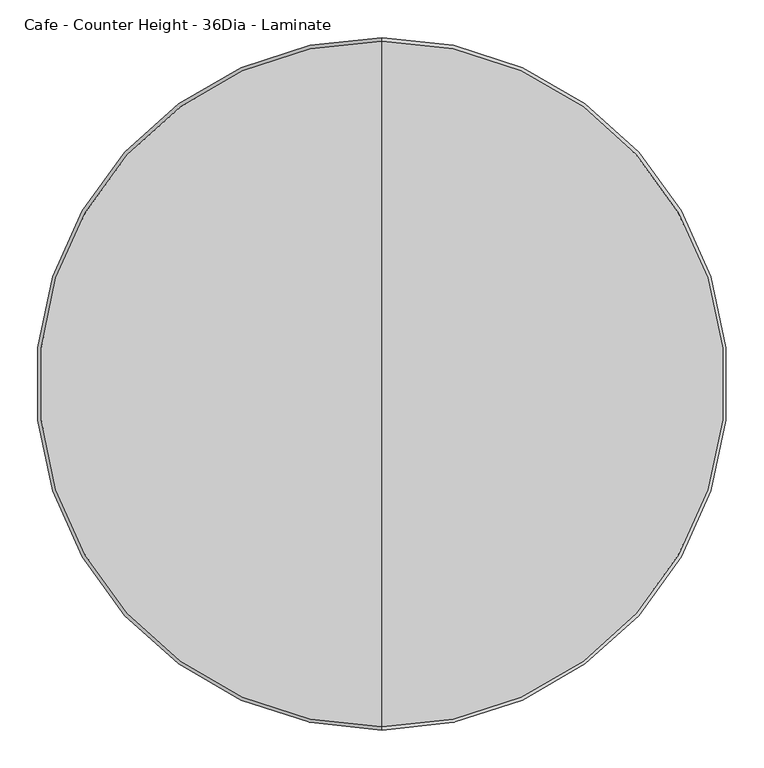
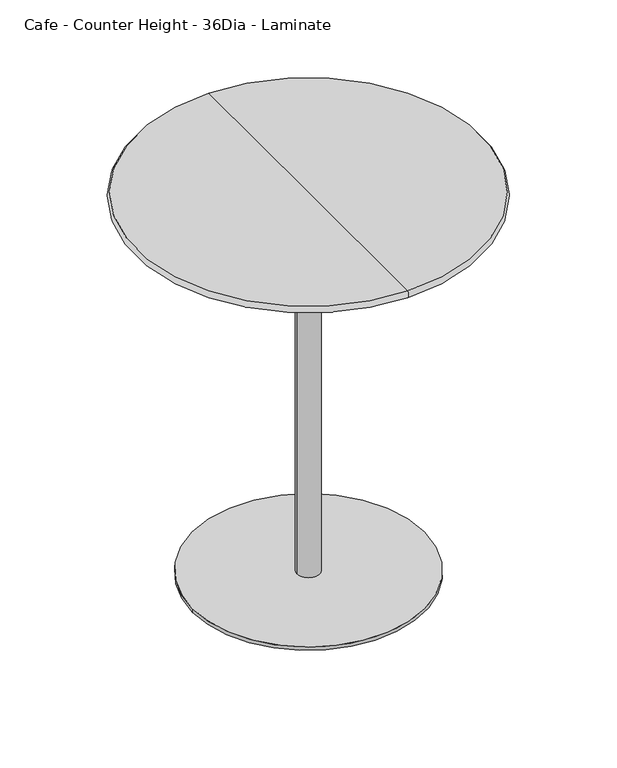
"""IFC4 building model written with IfcOpenShell, lengths in millimetres: furniture geometry, Steelcase Coalesse - Enea - Table - Single Base : Cafe - Counter Height - 36Dia - Laminate."""

import ifcopenshell
import ifcopenshell.guid

model = None  # the IFC model being written
_history = None  # IfcOwnerHistory: only IFC2X3 demands one
_inside = {}  # id of a spatial element -> (the spatial element, [elements in it])
_under = {}  # id of a project, library or spatial element -> (it, [spatial elements below it])
_declared = {}  # id of a project -> (the project, [libraries it declares])
_typed = {}  # id of a type object -> (the type object, [elements of that type])
_made_of = {}  # id of a material, layer set ... -> (it, [elements and type objects made of it])


def new_model(schema):
    """Start an empty IFC model of exactly this schema.

    Asked for "IFC4X3", IfcOpenShell would pick the latest addendum, in which some entities
    have other attributes; the version numbers below select the first issue.
    IFC2X3 requires an IfcOwnerHistory on every rooted entity: one is made here for all.
    """
    global model, _history
    if schema == "IFC4X3":
        model = ifcopenshell.file(schema_version=(4, 3, 0, 0))
    else:
        model = ifcopenshell.file(schema=schema)
    _inside.clear()
    _under.clear()
    _declared.clear()
    _typed.clear()
    _made_of.clear()
    _history = None
    if model.schema == "IFC2X3":
        org = make("IfcOrganization", Name="unknown")
        user = make(
            "IfcPersonAndOrganization",
            ThePerson=make("IfcPerson", FamilyName="unknown"),
            TheOrganization=org,
        )
        app = make(
            "IfcApplication",
            ApplicationDeveloper=org,
            Version="unknown",
            ApplicationFullName="unknown",
            ApplicationIdentifier="unknown",
        )
        _history = make(
            "IfcOwnerHistory",
            OwningUser=user,
            OwningApplication=app,
            ChangeAction="ADDED",
            CreationDate=0,
        )
    return model


def make(cls, **values):
    """One entity of the class cls with the attributes given. An attribute that is None is left unset."""
    return model.create_entity(
        cls, **{name: value for name, value in values.items() if value is not None}
    )


def rooted(cls, **values):
    """An entity with a GlobalId (a new one), such as an element, a storey or a relation."""
    return make(cls, GlobalId=ifcopenshell.guid.new(), OwnerHistory=_history, **values)


def si_unit(unit_type, name, prefix=None):
    """IfcSIUnit, for example si_unit("LENGTHUNIT", "METRE", prefix="MILLI")."""
    return make("IfcSIUnit", UnitType=unit_type, Prefix=prefix, Name=name)


def assignment(units):
    """IfcUnitAssignment: the units of a project."""
    return None if units is None else make("IfcUnitAssignment", Units=units)


def point(xyz):
    """IfcCartesianPoint."""
    return None if xyz is None else make("IfcCartesianPoint", Coordinates=xyz)


def direction(xyz):
    """IfcDirection."""
    return None if xyz is None else make("IfcDirection", DirectionRatios=xyz)


def frame(location, z_axis=None, x_axis=None):
    """IfcAxis2Placement3D, a coordinate frame: its origin and axes. An axis left out is left unset."""
    return make(
        "IfcAxis2Placement3D",
        Location=point(location),
        Axis=direction(z_axis),
        RefDirection=direction(x_axis),
    )


def frame_2d(location, x_axis=None):
    """IfcAxis2Placement2D, a coordinate frame in the plane: its origin and x axis."""
    return make(
        "IfcAxis2Placement2D", Location=point(location), RefDirection=direction(x_axis)
    )


def origin():
    """The frame at (0, 0, 0) with its axes left unset."""
    return frame((0.0, 0.0, 0.0))


def origin_with_axes():
    """The frame at (0, 0, 0) with the z axis (0, 0, 1) and the x axis (1, 0, 0) written out."""
    return frame((0.0, 0.0, 0.0), z_axis=(0.0, 0.0, 1.0), x_axis=(1.0, 0.0, 0.0))


def place(relative_to, where):
    """IfcLocalPlacement: puts the frame where relative to a parent placement (None: the world)."""
    return make(
        "IfcLocalPlacement", PlacementRelTo=relative_to, RelativePlacement=where
    )


def context(
    kind, dimensions, precision=None, world=None, true_north=None, identifier=None
):
    """IfcGeometricRepresentationContext, for example the 3D "Model" context."""
    return make(
        "IfcGeometricRepresentationContext",
        ContextIdentifier=identifier,
        ContextType=kind,
        CoordinateSpaceDimension=dimensions,
        Precision=precision,
        WorldCoordinateSystem=world,
        TrueNorth=true_north,
    )


def project(units=None, contexts=None):
    """IfcProject with its units and contexts."""
    return rooted(
        "IfcProject",
        Name="project",
        RepresentationContexts=contexts,
        UnitsInContext=assignment(units),
    )


def spatial(cls, under=None, at=None, **own):
    """A site, building, storey or space (cls), placed at a placement, below another one or the project."""
    s = rooted(cls, ObjectPlacement=at, **own)
    if under is not None:
        _under.setdefault(under.id(), (under, []))[1].append(s)
    return s


def circle_curve(where, radius):
    """IfcCircle in the frame where."""
    return make("IfcCircle", Position=where, Radius=radius)


def ellipse_curve(where, semi_axis1, semi_axis2):
    """IfcEllipse in the frame where."""
    return make(
        "IfcEllipse", Position=where, SemiAxis1=semi_axis1, SemiAxis2=semi_axis2
    )


def trimmed(basis, trim1, trim2, sense, master):
    """IfcTrimmedCurve: the piece of a basis curve between two trims."""
    return make(
        "IfcTrimmedCurve",
        BasisCurve=basis,
        Trim1=trim1,
        Trim2=trim2,
        SenseAgreement=sense,
        MasterRepresentation=master,
    )


def segment(curve, same_sense, transition):
    """IfcCompositeCurveSegment."""
    return make(
        "IfcCompositeCurveSegment",
        Transition=transition,
        SameSense=same_sense,
        ParentCurve=curve,
    )


def composite_curve(segments, self_intersect=None):
    """IfcCompositeCurve: segments joined end to end."""
    return make("IfcCompositeCurve", Segments=segments, SelfIntersect=self_intersect)


def outline(outer, holes=None, kind="AREA"):
    """IfcArbitraryClosedProfileDef: a profile drawn as a closed curve; with holes, ...WithVoids."""
    if holes is None:
        return make("IfcArbitraryClosedProfileDef", ProfileType=kind, OuterCurve=outer)
    return make(
        "IfcArbitraryProfileDefWithVoids",
        ProfileType=kind,
        OuterCurve=outer,
        InnerCurves=holes,
    )


def extrude(swept, where, along, depth):
    """IfcExtrudedAreaSolid: the profile swept, set in the frame where, extruded along a direction by depth."""
    return make(
        "IfcExtrudedAreaSolid",
        SweptArea=swept,
        Position=where,
        ExtrudedDirection=direction(along),
        Depth=depth,
    )


def shape(context_of_items, identifier, shape_type, items):
    """IfcShapeRepresentation: the items that make up one representation, for example the "Body"."""
    return make(
        "IfcShapeRepresentation",
        ContextOfItems=context_of_items,
        RepresentationIdentifier=identifier,
        RepresentationType=shape_type,
        Items=items,
    )


def source(mapping_origin, context_of_items, identifier, shape_type, items):
    """IfcRepresentationMap: a shape defined once, which mapped items show again and again."""
    return make(
        "IfcRepresentationMap",
        MappingOrigin=mapping_origin,
        MappedRepresentation=shape(context_of_items, identifier, shape_type, items),
    )


def transform(
    local_origin,
    x_axis=None,
    y_axis=None,
    z_axis=None,
    scale=None,
    scale2=None,
    scale3=None,
    uniform=True,
):
    """IfcCartesianTransformationOperator3D, or its non-uniform kind. x_axis, y_axis, z_axis: its Axis1, 2, 3."""
    if uniform:
        return make(
            "IfcCartesianTransformationOperator3D",
            Axis1=direction(x_axis),
            Axis2=direction(y_axis),
            LocalOrigin=point(local_origin),
            Scale=scale,
            Axis3=direction(z_axis),
        )
    return make(
        "IfcCartesianTransformationOperator3DnonUniform",
        Axis1=direction(x_axis),
        Axis2=direction(y_axis),
        LocalOrigin=point(local_origin),
        Scale=scale,
        Axis3=direction(z_axis),
        Scale2=scale2,
        Scale3=scale3,
    )


def mapped(mapping_source, mapping_target):
    """IfcMappedItem: shows the shape of a source again, moved by a transform."""
    return make(
        "IfcMappedItem", MappingSource=mapping_source, MappingTarget=mapping_target
    )


def made_of(thing, what):
    """Note that an element or type object is made of a material, layer set ...; save() writes the relation."""
    if what is not None:
        _made_of.setdefault(what.id(), (what, []))[1].append(thing)
    return thing


def element(
    cls,
    number,
    at=None,
    inside=None,
    cuts=None,
    type_object=None,
    material=None,
    context=None,
    identifier="Body",
    shape_type=None,
    held_by="IfcProductDefinitionShape",
    body=None,
    shapes=None,
    **own,
):
    """One element of the class cls, such as IfcWall. Its Tag is "e" and its number.

    at: its placement. inside: the storey or other place that contains it. cuts: it is an
    opening in that element (IfcRelVoidsElement). A single representation is given by context,
    identifier, shape_type and body (its items); several are given by shapes. held_by: the class
    of the entity that holds the representations. save() writes the other relations.
    """
    e = rooted(cls, Tag="e%d" % number, ObjectPlacement=at, **own)
    if body is not None:
        shapes = [shape(context, identifier, shape_type, body)]
    if shapes is not None:
        e.Representation = make(held_by, Representations=shapes)
    if inside is not None:
        _inside.setdefault(inside.id(), (inside, []))[1].append(e)
    if cuts is not None:
        rooted(
            "IfcRelVoidsElement", RelatingBuildingElement=cuts, RelatedOpeningElement=e
        )
    if type_object is not None:
        _typed.setdefault(type_object.id(), (type_object, []))[1].append(e)
    return made_of(e, material)


def aggregate(whole, parts):
    """IfcRelAggregates: a whole, such as a stair, and the parts it consists of."""
    return rooted("IfcRelAggregates", RelatingObject=whole, RelatedObjects=parts)


def save(model, path):
    """Write the relations noted so far, then the file.

    IfcRelAggregates (storeys below a building ...), IfcRelContainedInSpatialStructure (elements
    in a storey), IfcRelDefinesByType, IfcRelAssociatesMaterial and IfcRelDeclares: one each for
    every whole, place, type object, material and project.
    """
    for whole, parts in _under.values():
        aggregate(whole, parts)
    for where, things in _inside.values():
        rooted(
            "IfcRelContainedInSpatialStructure",
            RelatedElements=things,
            RelatingStructure=where,
        )
    for kind, things in _typed.values():
        rooted("IfcRelDefinesByType", RelatedObjects=things, RelatingType=kind)
    for what, things in _made_of.values():
        rooted("IfcRelAssociatesMaterial", RelatedObjects=things, RelatingMaterial=what)
    for by, libraries in _declared.values():
        rooted("IfcRelDeclares", RelatingContext=by, RelatedDefinitions=libraries)
    model.write(path)


def plane_surface(at):
    """IfcPlane: the flat surface through the origin of the frame at, square to its z axis."""
    return make("IfcPlane", Position=at)


def revolved_surface(curve, axis_point, axis_direction):
    """IfcSurfaceOfRevolution: the curve turned about the line through axis_point along axis_direction."""
    return make(
        "IfcSurfaceOfRevolution",
        SweptCurve=make("IfcArbitraryOpenProfileDef", ProfileType="CURVE", Curve=curve),
        AxisPosition=make("IfcAxis1Placement", Location=point(axis_point), Axis=direction(axis_direction)),
    )


def advanced_brep(points, edges, surfaces, faces):
    """IfcAdvancedBrep: a solid bounded by faces that lie on surfaces and meet in shared edges.

    An edge is (start, end): straight between two places in points (the first is 0);
    or (start, end, curve); or (start, end, curve, False) where it runs against its curve.
    A face is (place in surfaces, loops), or (place, loops, False) where it looks against
    its surface's normal. A loop lists edges by number (the first is 1), with a minus sign
    where the edge is run from its end to its start. The first loop is the outer one.
    """
    corners = [point(p) for p in points]
    vertices = [make("IfcVertexPoint", VertexGeometry=c) for c in corners]
    made = []
    for start, end, *more in edges:
        made.append(
            make(
                "IfcEdgeCurve",
                EdgeStart=vertices[start],
                EdgeEnd=vertices[end],
                EdgeGeometry=more[0] if more else make("IfcPolyline", Points=[corners[start], corners[end]]),
                SameSense=more[1] if len(more) > 1 else True,
            )
        )
    hull = []
    for where, loops, *sense in faces:
        bounds = []
        for j, loop in enumerate(loops):
            ring = [make("IfcOrientedEdge", EdgeElement=made[abs(k) - 1], Orientation=k > 0) for k in loop]
            bounds.append(
                make(
                    "IfcFaceOuterBound" if j == 0 else "IfcFaceBound",
                    Bound=make("IfcEdgeLoop", EdgeList=ring),
                    Orientation=True,
                )
            )
        hull.append(make("IfcAdvancedFace", Bounds=bounds, FaceSurface=surfaces[where], SameSense=sense[0] if sense else True))
    return make("IfcAdvancedBrep", Outer=make("IfcClosedShell", CfsFaces=hull))


def cafe_counter_height_36dia_laminate_353299e5(model_context):
    return source(origin(), model_context, "Body", "SolidModel", [
        extrude(outline(composite_curve([segment(trimmed(circle_curve(frame_2d((537.718, -284.0746893)), 25.4), [point((512.318, -284.0746893))], [point((563.118, -284.0746893))], False, "CARTESIAN"), True, "CONTINUOUS"), segment(trimmed(circle_curve(frame_2d((537.718, -284.0746893)), 25.4), [point((563.118, -284.0746893))], [point((512.318, -284.0746893))], False, "CARTESIAN"), True, "CONTINUOUS")], self_intersect=False)), origin_with_axes(), (0.0, 0.0, 1.0), 6.35),
        extrude(outline(composite_curve([segment(trimmed(circle_curve(frame_2d((791.3613107, -537.3772238)), 25.4), [point((765.9613107, -537.3772238))], [point((816.7613107, -537.3772238))], False, "CARTESIAN"), True, "CONTINUOUS"), segment(trimmed(circle_curve(frame_2d((791.3613107, -537.3772238)), 25.4), [point((816.7613107, -537.3772238))], [point((765.9613107, -537.3772238))], False, "CARTESIAN"), True, "CONTINUOUS")], self_intersect=False)), origin_with_axes(), (0.0, 0.0, 1.0), 6.35),
        extrude(outline(composite_curve([segment(trimmed(circle_curve(frame_2d((284.0746893, -537.3772238)), 25.4), [point((258.6746893, -537.3772238))], [point((309.4746893, -537.3772238))], False, "CARTESIAN"), True, "CONTINUOUS"), segment(trimmed(circle_curve(frame_2d((284.0746893, -537.3772238)), 25.4), [point((309.4746893, -537.3772238))], [point((258.6746893, -537.3772238))], False, "CARTESIAN"), True, "CONTINUOUS")], self_intersect=False)), origin_with_axes(), (0.0, 0.0, 1.0), 6.35),
        extrude(outline(composite_curve([segment(trimmed(circle_curve(frame_2d((537.718, -790.6797584)), 25.4), [point((512.318, -790.6797584))], [point((563.118, -790.6797584))], False, "CARTESIAN"), True, "CONTINUOUS"), segment(trimmed(circle_curve(frame_2d((537.718, -790.6797584)), 25.4), [point((563.118, -790.6797584))], [point((512.318, -790.6797584))], False, "CARTESIAN"), True, "CONTINUOUS")], self_intersect=False)), origin_with_axes(), (0.0, 0.0, 1.0), 6.35),
        advanced_brep(
        [(537.718, -990.6075871, 1066.8), (537.718, -84.8284129, 1066.8), (537.718, -537.718, 1066.8), (537.718, -990.6075871, 1047.75), (537.718, -84.8284129, 1047.75), (537.718, -537.718, 1047.75)],
        [
            (0, 1, circle_curve(frame((537.718, -537.718, 1066.8), z_axis=(0.0, 0.0, 1.0), x_axis=(0.0, 1.0, 0.0)), 452.8895871)),
            (1, 2),
            (2, 0),
            (1, 0, circle_curve(frame((537.718, -537.718, 1066.8), z_axis=(0.0, 0.0, 1.0), x_axis=(0.0, 1.0, 0.0)), 452.8895871)),
            (3, 4, circle_curve(frame((537.718, -537.718, 1047.75), z_axis=(0.0, 0.0, 1.0), x_axis=(0.0, 1.0, 0.0)), 452.8895871)),
            (4, 1, circle_curve(frame((537.718, -93.1968446, 1057.275), z_axis=(1.0, 0.0, 0.0), x_axis=(0.0, -1.0, 0.0)), 12.6789697)),
            (0, 3, circle_curve(frame((537.718, -982.2391554, 1057.275), z_axis=(1.0, 0.0, 0.0), x_axis=(0.0, 1.0, 0.0)), 12.6789697)),
            (4, 3, circle_curve(frame((537.718, -537.718, 1047.75), z_axis=(0.0, 0.0, 1.0), x_axis=(0.0, 1.0, 0.0)), 452.8895871)),
            (5, 4),
            (3, 5),
        ],
        [
            plane_surface(frame((537.718, -537.718, 1066.8), z_axis=(0.0, 0.0, 1.0), x_axis=(0.0, 1.0, 0.0))),
            revolved_surface(trimmed(ellipse_curve(frame((537.718, -93.1968446, 1057.275), z_axis=(-1.0, 0.0, 0.0), x_axis=(0.0, -1.0, 0.0)), 12.6789697, 12.6789697), [point((537.718, -84.8284129, 1066.8))], [point((537.718, -84.8284129, 1047.75))], True, "CARTESIAN"), (537.718, -537.718, 1108.3678651), (0.0, 0.0, -1.0)),
            plane_surface(frame((537.718, -537.718, 1047.75), z_axis=(0.0, 0.0, -1.0), x_axis=(0.0, 1.0, 0.0))),
        ],
        [
            (0, [[1, 2, 3]]),
            (0, [[4, -3, -2]]),
            (1, [[5, 6, -1, 7]]),
            (1, [[8, -7, -4, -6]]),
            (2, [[9, -5, 10]]),
            (2, [[-10, -8, -9]]),
        ],
    ),
        extrude(outline(composite_curve([segment(trimmed(circle_curve(frame_2d((537.718, -537.718)), 304.8), [point((842.518, -537.718))], [point((232.918, -537.718))], False, "CARTESIAN"), True, "CONTINUOUS"), segment(trimmed(circle_curve(frame_2d((537.718, -537.718)), 304.8), [point((232.918, -537.718))], [point((842.518, -537.718))], False, "CARTESIAN"), True, "CONTINUOUS")], self_intersect=False)), frame((0.0, 0.0, 6.35), z_axis=(0.0, 0.0, 1.0), x_axis=(1.0, 0.0, 0.0)), (0.0, 0.0, 1.0), 9.525),
        extrude(outline(composite_curve([segment(trimmed(circle_curve(frame_2d((537.7182907, -537.7179273)), 30.0214725), [point((567.7397632, -537.7179273))], [point((507.6968182, -537.7179273))], False, "CARTESIAN"), True, "CONTINUOUS"), segment(trimmed(circle_curve(frame_2d((537.7182907, -537.7179273)), 30.0214725), [point((507.6968182, -537.7179273))], [point((567.7397632, -537.7179273))], False, "CARTESIAN"), True, "CONTINUOUS")], self_intersect=False)), frame((0.0, 0.0, 15.875), z_axis=(0.0, 0.0, 1.0), x_axis=(1.0, 0.0, 0.0)), (0.0, 0.0, 1.0), 1031.875),
    ])


if __name__ == "__main__":
    model = new_model("IFC4")
    model_context = context("Model", 3, world=origin())
    ifc_project = project(units=[si_unit("LENGTHUNIT", "METRE", prefix="MILLI")], contexts=[model_context])
    site = spatial("IfcSite", under=ifc_project)
    building = spatial("IfcBuilding", under=site)
    placement = place(None, origin())
    cafe_counter_height_36dia_laminate_shape = cafe_counter_height_36dia_laminate_353299e5(model_context)
    element("IfcFurniture", 1, ObjectType="Steelcase Coalesse - Enea - Table - Single Base : Cafe - Counter Height - 36Dia - Laminate", at=placement, inside=building, context=model_context, shape_type="MappedRepresentation", body=[
        mapped(cafe_counter_height_36dia_laminate_shape, transform((0.0, 0.0, 0.0), x_axis=(1.0, 0.0, 0.0), y_axis=(0.0, 1.0, 0.0), z_axis=(0.0, 0.0, 1.0))),
    ])
    save(model, "model.ifc")
